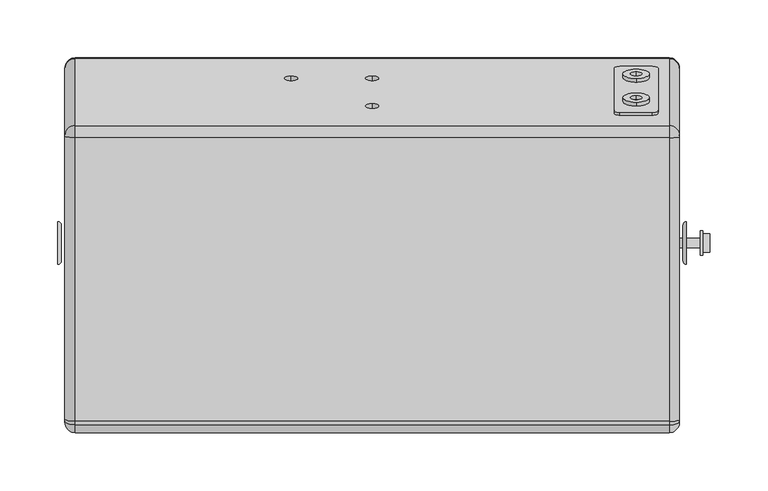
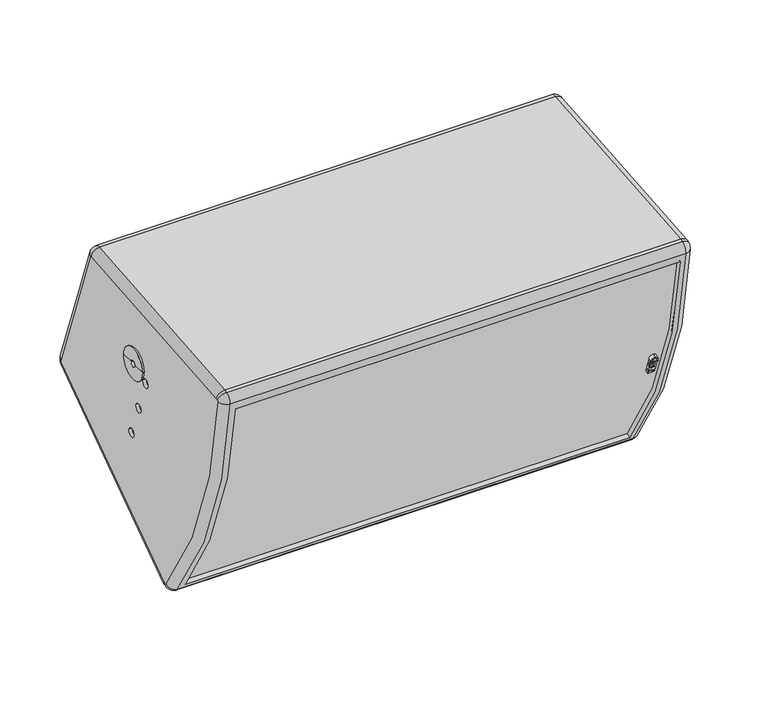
"""IFC4 building model written with IfcOpenShell, lengths in millimetres: proxy geometry, ePS10-HBRK535-CHM : ePS10-HBRK535-CHM."""

from ifc_helpers import new_model, si_unit, point, frame, frame_2d, origin, place, context, project, spatial, polyline, circle_curve, ellipse_curve, trimmed, segment, composite_curve, outline, extrude, source, transform, mapped, element, save
from ifc_brep_helpers import plane_surface, cylinder_surface, revolved_surface, advanced_brep


def generic_models_9b18be5a(model_context):
    return source(origin(), model_context, "Body", "SolidModel", [
        extrude(outline(polyline([(0.0, 0.0), (7.2797671, 0.0), (7.2797671, -1.8923673), (3.1144368, -1.8923673), (7.2797671, -4.6674642), (7.2797671, -11.5183739), (5.4047959, -12.8369463), (3.8052625, -11.7735691), (5.6771026, -10.4040266), (5.6771026, -7.3703972), (4.4228153, -7.3703972), (4.4228153, -9.6535101), (2.820085, -9.6535101), (2.820085, -7.3703972), (1.6035818, -7.3703972), (1.6035818, -9.7774719), (0.8035818, -9.7774719), (0.0008515, -9.2438131), (0.0008515, -4.9754372), (4.4509076, -4.9657456), (0.0, -2.0264793), (0.0, 0.0)])), frame((236.0590531, -155.6252623, -339.7705012), z_axis=(0.0, 0.9396926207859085, 0.34202014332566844), x_axis=(1.0, 0.0, 0.0)), (0.0, 0.0, 1.0), 5.0),
        extrude(outline(polyline([(0.0, -9.8851283), (8.2409469, -15.3637474), (8.2409469, -17.5569502), (0.0, -12.078331), (0.0, -9.8851283)])), frame((236.0590531, -155.6252623, -339.7705012), z_axis=(0.0, 0.9396926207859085, 0.34202014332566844), x_axis=(1.0, 0.0, 0.0)), (0.0, 0.0, 1.0), 5.0),
        extrude(outline(polyline([(0.0, -16.6257623), (0.0, -14.2989718), (1.267957, -13.5511775), (2.8988509, -14.6354032), (0.0, -16.6257623)])), frame((236.0590531, -155.6252623, -339.7705012), z_axis=(0.0, 0.9396926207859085, 0.34202014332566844), x_axis=(1.0, 0.0, 0.0)), (0.0, 0.0, 1.0), 5.0),
        extrude(outline(composite_curve([segment(trimmed(circle_curve(frame_2d((3.670838, -20.0113735)), 3.9406238), [point((3.670838, -16.0707497))], [point((3.670838, -23.9519974))], False, "CARTESIAN"), True, "CONTINUOUS"), segment(trimmed(circle_curve(frame_2d((3.670838, -20.0113735)), 3.9406238), [point((3.670838, -23.9519974))], [point((3.670838, -16.0707497))], False, "CARTESIAN"), True, "CONTINUOUS")], self_intersect=False), holes=[composite_curve([segment(trimmed(circle_curve(frame_2d((3.670838, -20.0113735)), 2.0681078), [point((3.670838, -17.9432657))], [point((3.670838, -22.0794812))], True, "CARTESIAN"), True, "CONTINUOUS"), segment(trimmed(circle_curve(frame_2d((3.670838, -20.0113735)), 2.0681078), [point((3.670838, -22.0794812))], [point((3.670838, -17.9432657))], True, "CARTESIAN"), True, "CONTINUOUS")], self_intersect=False)]), frame((236.0590531, -155.6252623, -339.7705012), z_axis=(0.0, 0.9396926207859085, 0.34202014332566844), x_axis=(1.0, 0.0, 0.0)), (0.0, 0.0, 1.0), 5.0),
        extrude(outline(composite_curve([segment(trimmed(circle_curve(frame_2d((0.0, 5.0)), 11.4515227), [point((0.0, 16.4515227))], [point((0.0, -6.4515226))], False, "CARTESIAN"), True, "CONTINUOUS"), segment(trimmed(circle_curve(frame_2d((0.0, 5.0)), 11.4515227), [point((0.0, -6.4515226))], [point((0.0, 16.4515227))], False, "CARTESIAN"), True, "CONTINUOUS")], self_intersect=False), holes=[composite_curve([segment(trimmed(circle_curve(frame_2d((0.0, 5.0)), 5.0), [point((0.0, 10.0))], [point((0.0, 0.0))], True, "CARTESIAN"), True, "CONTINUOUS"), segment(trimmed(circle_curve(frame_2d((0.0, 5.0)), 5.0), [point((0.0, 0.0))], [point((0.0, 10.0))], True, "CARTESIAN"), True, "CONTINUOUS")], self_intersect=False)]), frame((228.0, 93.5351781, -209.7766717), z_axis=(0.0, 0.9396926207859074, 0.3420201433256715), x_axis=(-1.0, 0.0, 0.0)), (0.0, 0.0, 1.0), 3.4052646),
        extrude(outline(composite_curve([segment(trimmed(circle_curve(frame_2d((0.0, -55.0)), 11.4515227), [point((0.0, -43.5484774))], [point((0.0, -66.4515227))], False, "CARTESIAN"), True, "CONTINUOUS"), segment(trimmed(circle_curve(frame_2d((0.0, -55.0)), 11.4515227), [point((0.0, -66.4515227))], [point((0.0, -43.5484774))], False, "CARTESIAN"), True, "CONTINUOUS")], self_intersect=False), holes=[composite_curve([segment(trimmed(circle_curve(frame_2d((0.0, -55.0)), 5.0), [point((0.0, -50.0))], [point((0.0, -60.0))], True, "CARTESIAN"), True, "CONTINUOUS"), segment(trimmed(circle_curve(frame_2d((0.0, -55.0)), 5.0), [point((0.0, -60.0))], [point((0.0, -50.0))], True, "CARTESIAN"), True, "CONTINUOUS")], self_intersect=False)]), frame((228.0, 93.5351781, -209.7766717), z_axis=(0.0, 0.9396926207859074, 0.3420201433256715), x_axis=(-1.0, 0.0, 0.0)), (0.0, 0.0, 1.0), 3.4052646),
        extrude(outline(composite_curve([segment(polyline([(-5.0, -5.0), (-5.0, 101.0)]), True, "CONTINUOUS"), segment(trimmed(circle_curve(frame_2d((0.0, 101.0)), 5.0), [point((-5.0, 101.0))], [point((0.0, 106.0))], False, "CARTESIAN"), True, "CONTINUOUS"), segment(polyline([(0.0, 106.0), (28.0, 106.0)]), True, "CONTINUOUS"), segment(trimmed(circle_curve(frame_2d((28.0, 101.0)), 5.0), [point((28.0, 106.0))], [point((33.0, 101.0))], False, "CARTESIAN"), True, "CONTINUOUS"), segment(polyline([(33.0, 101.0), (33.0, -5.0)]), True, "CONTINUOUS"), segment(trimmed(circle_curve(frame_2d((28.0, -5.0)), 5.0), [point((33.0, -5.0))], [point((28.0, -10.0))], False, "CARTESIAN"), True, "CONTINUOUS"), segment(polyline([(28.0, -10.0), (0.0, -10.0)]), True, "CONTINUOUS"), segment(trimmed(circle_curve(frame_2d((0.0, -5.0)), 5.0), [point((0.0, -10.0))], [point((-5.0, -5.0))], False, "CARTESIAN"), True, "CONTINUOUS")], self_intersect=False)), frame((214.0, 83.3194833, -189.0187918), z_axis=(0.0, 0.9396926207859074, 0.3420201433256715), x_axis=(1.0, 0.0, 0.0)), (0.0, 0.0, 1.0), 2.5),
        advanced_brep(
        [(-265.5, 120.2466681, -316.7654385), (-265.5, 119.8775217, -317.9362213), (-265.5, -80.6604938, -458.3544514), (-265.5, -82.5397121, -459.0384309), (-265.5, -83.6994288, -458.6847752), (-265.5, -185.1284454, -180.0108425), (-265.5, -184.4673763, -178.994475), (-265.5, -182.5881581, -178.3104955), (-265.5, 61.2919728, -156.9737487), (-265.5, 62.3273201, -157.6333377), (-265.5, -35.1984631, -283.2363296), (-265.5, -25.8015369, -279.8161281), (-265.5, -21.5176574, -320.8240344), (-265.5, -12.1207312, -317.4038329), (-265.5, -48.8792688, -245.6486247), (-265.5, -39.4823426, -242.2284233), (265.5, 62.3195426, -157.6361684), (265.5, 61.2926942, -156.9819939), (265.5, -182.5863512, -178.3186456), (265.5, -184.4645456, -179.0022525), (265.5, -185.1201881, -180.010277), (265.5, -83.6927398, -458.6799007), (265.5, -82.5425429, -459.0306534), (265.5, -80.6643485, -458.3470466), (265.5, 119.8727744, -317.9294415), (265.5, 120.2388906, -316.7682693), (265.5, -25.8015369, -279.8161281), (265.5, -35.1984631, -283.2363296), (265.5, -12.1207312, -317.4038329), (265.5, -21.5176574, -320.8240344), (265.5, -39.4823426, -242.2284233), (265.5, -48.8792688, -245.6486247), (-261.5, -25.8015369, -279.8161281), (-261.5, -35.1984631, -283.2363296), (-261.5, -12.1207312, -317.4038329), (-261.5, -21.5176574, -320.8240344), (-261.5, -39.4823426, -242.2284233), (-261.5, -48.8792688, -245.6486247), (-250.5, -95.67032, -457.4237069), (-250.5, -90.7991071, -455.6507305), (-250.5, -188.6168681, -186.8986409), (-250.5, -193.488081, -188.6716174), (250.5, -193.488081, -188.6716174), (250.5, -188.6168681, -186.8986409), (250.5, -90.7991071, -455.6507305), (250.5, -95.67032, -457.4237069), (261.5, -25.8015369, -279.8161281), (261.5, -35.1984631, -283.2363296), (261.5, -12.1207312, -317.4038329), (261.5, -21.5176574, -320.8240344), (261.5, -39.4823426, -242.2284233), (261.5, -48.8792688, -245.6486247), (0.0, 104.0452659, -263.7822256), (0.0, 107.9146493, -274.4132693), (0.0, 80.1038558, -198.0037422), (0.0, 83.9732393, -208.6347859), (-70.0, 104.0452659, -263.7822256), (-70.0, 107.9146493, -274.4132693), (0.0, 113.6418272, -272.328747), (0.0, 109.7724438, -261.6977034), (0.0, 89.7004172, -206.5502636), (0.0, 85.8310337, -195.9192199), (-256.5082766, 128.6961242, -313.690088), (-256.5082766, 70.7767762, -154.5579871), (256.5, 70.7767762, -154.5579871), (256.5, 128.6961242, -313.690088), (-70.0, 113.6418272, -272.328747), (-70.0, 109.7724438, -261.6977034), (-256.5082766, 125.0349623, -325.3018098), (256.5, 125.0349623, -325.3018098), (-256.5082766, -76.4727513, -466.39903), (256.5, -76.4727513, -466.39903), (-256.5082766, -79.4643616, -467.487887), (256.5, -79.4643616, -467.487887), (-256.5082766, -194.0991519, -180.6252642), (-256.5082766, -90.9663313, -463.9803599), (256.500006, -90.9663313, -463.9803599), (256.5, -194.0991519, -180.6252642), (-256.5082766, -184.5511166, -169.4561618), (-256.5082766, -187.5427269, -170.5450189), (256.5, -187.5427269, -170.5450189), (256.5, -184.5511166, -169.4561618), (-256.5082766, 60.5082925, -148.0162416), (256.5, 60.5082925, -148.0162416)],
        [
            (0, 1, circle_curve(frame((-265.5, 119.299198, -317.1102894), z_axis=(-1.0, 0.0, 0.0), x_axis=(0.0, 0.9396926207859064, 0.3420201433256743)), 1.0082766)),
            (1, 2),
            (2, 3),
            (3, 4, circle_curve(frame((-265.5, -82.884563, -458.0909608), z_axis=(-1.0, 0.0, 0.0), x_axis=(0.0, 0.3420201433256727, -0.939692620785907)), 1.0082766)),
            (4, 5, circle_curve(frame((-265.5, 348.9059431, -143.4337588), z_axis=(-1.0, 0.0, 0.0), x_axis=(0.0, -0.8081768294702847, -0.5889399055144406)), 535.2855417)),
            (5, 6, circle_curve(frame((-265.5, -184.1225254, -179.9419451), z_axis=(-1.0, 0.0, 0.0), x_axis=(0.0, -0.9976626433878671, -0.06833191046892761)), 1.0082766)),
            (6, 7),
            (7, 8),
            (8, 9, circle_curve(frame((-265.5, 61.3798499, -157.9781886), z_axis=(-1.0, 0.0, 0.0), x_axis=(0.0, -0.08715574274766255, 0.9961946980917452)), 1.0082766)),
            (9, 0),
            (10, 11, circle_curve(frame((-265.5, -30.5, -281.5262288), z_axis=(1.0, 0.0, 0.0), x_axis=(0.0, -0.9396926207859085, -0.34202014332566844)), 5.0)),
            (11, 10, circle_curve(frame((-265.5, -30.5, -281.5262288), z_axis=(1.0, 0.0, 0.0), x_axis=(0.0, -0.9396926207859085, -0.34202014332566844)), 5.0)),
            (12, 13, circle_curve(frame((-265.5, -16.8191943, -319.1139337), z_axis=(1.0, 0.0, 0.0), x_axis=(0.0, -0.9396926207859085, -0.34202014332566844)), 5.0)),
            (13, 12, circle_curve(frame((-265.5, -16.8191943, -319.1139337), z_axis=(1.0, 0.0, 0.0), x_axis=(0.0, -0.9396926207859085, -0.34202014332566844)), 5.0)),
            (14, 15, circle_curve(frame((-265.5, -44.1808057, -243.938524), z_axis=(1.0, 0.0, 0.0), x_axis=(0.0, -0.9396926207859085, -0.34202014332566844)), 5.0)),
            (15, 14, circle_curve(frame((-265.5, -44.1808057, -243.938524), z_axis=(1.0, 0.0, 0.0), x_axis=(0.0, -0.9396926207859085, -0.34202014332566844)), 5.0)),
            (16, 17, circle_curve(frame((265.5, 61.3798499, -157.9781886), z_axis=(1.0, 0.0, 0.0), x_axis=(0.0, 0.9396926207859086, 0.34202014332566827)), 1.0)),
            (17, 18),
            (18, 19),
            (19, 20, circle_curve(frame((265.5, -184.1225254, -179.9419451), z_axis=(1.0, 0.0, 0.0), x_axis=(0.0, -0.34202014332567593, 0.9396926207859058)), 1.0)),
            (20, 21, circle_curve(frame((265.5, 348.9059431, -143.4337588), z_axis=(1.0, 0.0, 0.0), x_axis=(0.0, -0.9976626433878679, -0.06833191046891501)), 535.277265)),
            (21, 22, circle_curve(frame((265.5, -82.884563, -458.0909608), z_axis=(1.0, 0.0, 0.0), x_axis=(0.0, -0.8081768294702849, -0.5889399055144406)), 1.0)),
            (22, 23),
            (23, 24),
            (24, 25, circle_curve(frame((265.5, 119.299198, -317.1102894), z_axis=(1.0, 0.0, 0.0), x_axis=(0.0, 0.5735764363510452, -0.8191520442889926)), 1.0)),
            (25, 16),
            (26, 27, circle_curve(frame((265.5, -30.5, -281.5262288), z_axis=(-1.0, 0.0, 0.0), x_axis=(0.0, -0.9396926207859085, -0.34202014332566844)), 5.0)),
            (27, 26, circle_curve(frame((265.5, -30.5, -281.5262288), z_axis=(-1.0, 0.0, 0.0), x_axis=(0.0, -0.9396926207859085, -0.34202014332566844)), 5.0)),
            (28, 29, circle_curve(frame((265.5, -16.8191943, -319.1139337), z_axis=(-1.0, 0.0, 0.0), x_axis=(0.0, -0.9396926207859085, -0.34202014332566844)), 5.0)),
            (29, 28, circle_curve(frame((265.5, -16.8191943, -319.1139337), z_axis=(-1.0, 0.0, 0.0), x_axis=(0.0, -0.9396926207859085, -0.34202014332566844)), 5.0)),
            (30, 31, circle_curve(frame((265.5, -44.1808057, -243.938524), z_axis=(-1.0, 0.0, 0.0), x_axis=(0.0, -0.9396926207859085, -0.34202014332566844)), 5.0)),
            (31, 30, circle_curve(frame((265.5, -44.1808057, -243.938524), z_axis=(-1.0, 0.0, 0.0), x_axis=(0.0, -0.9396926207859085, -0.34202014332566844)), 5.0)),
            (32, 33, circle_curve(frame((-261.5, -30.5, -281.5262288), z_axis=(-1.0, 0.0, 0.0), x_axis=(0.0, -0.9396926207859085, -0.34202014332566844)), 5.0)),
            (33, 32, circle_curve(frame((-261.5, -30.5, -281.5262288), z_axis=(-1.0, 0.0, 0.0), x_axis=(0.0, -0.9396926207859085, -0.34202014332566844)), 5.0)),
            (34, 35, circle_curve(frame((-261.5, -16.8191943, -319.1139337), z_axis=(-1.0, 0.0, 0.0), x_axis=(0.0, -0.9396926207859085, -0.34202014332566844)), 5.0)),
            (35, 34, circle_curve(frame((-261.5, -16.8191943, -319.1139337), z_axis=(-1.0, 0.0, 0.0), x_axis=(0.0, -0.9396926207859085, -0.34202014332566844)), 5.0)),
            (36, 37, circle_curve(frame((-261.5, -44.1808057, -243.938524), z_axis=(-1.0, 0.0, 0.0), x_axis=(0.0, -0.9396926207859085, -0.34202014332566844)), 5.0)),
            (37, 36, circle_curve(frame((-261.5, -44.1808057, -243.938524), z_axis=(-1.0, 0.0, 0.0), x_axis=(0.0, -0.9396926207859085, -0.34202014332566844)), 5.0)),
            (32, 11),
            (10, 33),
            (34, 13),
            (12, 35),
            (36, 15),
            (14, 37),
            (38, 39),
            (39, 40, circle_curve(frame((-250.5, 348.9059431, -143.4337588), z_axis=(-1.0, 0.0, 0.0), x_axis=(0.0, -0.34202014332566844, 0.9396926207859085)), 539.277265)),
            (40, 41),
            (41, 38, circle_curve(frame((-250.5, 348.9059431, -143.4337588), z_axis=(1.0, 0.0, 0.0), x_axis=(0.0, -0.34202014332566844, 0.9396926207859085)), 544.277265)),
            (42, 43),
            (43, 44, circle_curve(frame((250.5, 348.9059431, -143.4337588), z_axis=(1.0, 0.0, 0.0), x_axis=(0.0, -0.34202014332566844, 0.9396926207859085)), 539.277265)),
            (44, 45),
            (45, 42, circle_curve(frame((250.5, 348.9059431, -143.4337588), z_axis=(-1.0, 0.0, 0.0), x_axis=(0.0, -0.34202014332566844, 0.9396926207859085)), 544.277265)),
            (46, 47, circle_curve(frame((261.5, -30.5, -281.5262288), z_axis=(1.0, 0.0, 0.0), x_axis=(0.0, -0.9396926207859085, -0.34202014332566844)), 5.0)),
            (47, 46, circle_curve(frame((261.5, -30.5, -281.5262288), z_axis=(1.0, 0.0, 0.0), x_axis=(0.0, -0.9396926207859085, -0.34202014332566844)), 5.0)),
            (48, 49, circle_curve(frame((261.5, -16.8191943, -319.1139337), z_axis=(1.0, 0.0, 0.0), x_axis=(0.0, -0.9396926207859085, -0.34202014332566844)), 5.0)),
            (49, 48, circle_curve(frame((261.5, -16.8191943, -319.1139337), z_axis=(1.0, 0.0, 0.0), x_axis=(0.0, -0.9396926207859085, -0.34202014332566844)), 5.0)),
            (50, 51, circle_curve(frame((261.5, -44.1808057, -243.938524), z_axis=(1.0, 0.0, 0.0), x_axis=(0.0, -0.9396926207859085, -0.34202014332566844)), 5.0)),
            (51, 50, circle_curve(frame((261.5, -44.1808057, -243.938524), z_axis=(1.0, 0.0, 0.0), x_axis=(0.0, -0.9396926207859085, -0.34202014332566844)), 5.0)),
            (47, 27),
            (26, 46),
            (49, 29),
            (28, 48),
            (51, 31),
            (30, 50),
            (52, 53, circle_curve(frame((0.0, 105.9799576, -269.0977475), z_axis=(0.0, 0.9396926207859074, 0.3420201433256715), x_axis=(0.0, 0.3420201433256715, -0.9396926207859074)), 5.6566602)),
            (53, 52, circle_curve(frame((0.0, 105.9799576, -269.0977475), z_axis=(0.0, 0.9396926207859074, 0.3420201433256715), x_axis=(0.0, 0.3420201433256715, -0.9396926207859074)), 5.6566602)),
            (54, 55, circle_curve(frame((0.0, 82.0385476, -203.319264), z_axis=(0.0, 0.9396926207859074, 0.3420201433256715), x_axis=(0.0, 0.3420201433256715, -0.9396926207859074)), 5.6566602)),
            (55, 54, circle_curve(frame((0.0, 82.0385476, -203.319264), z_axis=(0.0, 0.9396926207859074, 0.3420201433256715), x_axis=(0.0, 0.3420201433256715, -0.9396926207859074)), 5.6566602)),
            (56, 57, circle_curve(frame((-70.0, 105.9799576, -269.0977475), z_axis=(0.0, 0.9396926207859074, 0.3420201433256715), x_axis=(0.0, 0.3420201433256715, -0.9396926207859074)), 5.6566602)),
            (57, 56, circle_curve(frame((-70.0, 105.9799576, -269.0977475), z_axis=(0.0, 0.9396926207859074, 0.3420201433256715), x_axis=(0.0, 0.3420201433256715, -0.9396926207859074)), 5.6566602)),
            (53, 58),
            (58, 59, circle_curve(frame((0.0, 111.7071355, -267.0132252), z_axis=(0.0, 0.9396926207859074, 0.3420201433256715), x_axis=(0.0, 0.3420201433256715, -0.9396926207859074)), 5.6566602)),
            (59, 52),
            (59, 58, circle_curve(frame((0.0, 111.7071355, -267.0132252), z_axis=(0.0, 0.9396926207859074, 0.3420201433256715), x_axis=(0.0, 0.3420201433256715, -0.9396926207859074)), 5.6566602)),
            (55, 60),
            (60, 61, circle_curve(frame((0.0, 87.7657255, -201.2347417), z_axis=(0.0, 0.9396926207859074, 0.3420201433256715), x_axis=(0.0, 0.3420201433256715, -0.9396926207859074)), 5.6566602)),
            (61, 54),
            (61, 60, circle_curve(frame((0.0, 87.7657255, -201.2347417), z_axis=(0.0, 0.9396926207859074, 0.3420201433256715), x_axis=(0.0, 0.3420201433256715, -0.9396926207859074)), 5.6566602)),
            (62, 63),
            (63, 64),
            (64, 65),
            (65, 62),
            (66, 67, circle_curve(frame((-70.0, 111.7071355, -267.0132252), z_axis=(0.0, -0.9396926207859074, -0.3420201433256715), x_axis=(0.0, 0.3420201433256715, -0.9396926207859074)), 5.6566602)),
            (67, 66, circle_curve(frame((-70.0, 111.7071355, -267.0132252), z_axis=(0.0, -0.9396926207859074, -0.3420201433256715), x_axis=(0.0, 0.3420201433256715, -0.9396926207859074)), 5.6566602)),
            (68, 62, circle_curve(frame((-256.5082766, 119.299198, -317.1102894), z_axis=(1.0, 0.0, 0.0), x_axis=(0.0, -0.34202014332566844, 0.9396926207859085)), 10.0)),
            (65, 69, circle_curve(frame((256.5, 119.299198, -317.1102894), z_axis=(-1.0, 0.0, 0.0), x_axis=(0.0, -0.34202014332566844, 0.9396926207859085)), 10.0)),
            (69, 68),
            (70, 68),
            (69, 71),
            (71, 70),
            (72, 70),
            (71, 73),
            (73, 72),
            (74, 75, circle_curve(frame((-256.5082766, 348.9059431, -143.4337588), z_axis=(1.0, 0.0, 0.0), x_axis=(0.0, -0.34202014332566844, 0.9396926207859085)), 544.277265)),
            (75, 76),
            (76, 77, circle_curve(frame((256.5, 348.9059431, -143.4337588), z_axis=(-1.0, 0.0, 0.0), x_axis=(0.0, -0.34202014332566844, 0.9396926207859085)), 544.277265)),
            (77, 74),
            (41, 42),
            (45, 38),
            (78, 79),
            (79, 80),
            (80, 81),
            (81, 78),
            (82, 78),
            (81, 83),
            (83, 82),
            (63, 82, circle_curve(frame((-256.5082766, 61.3798499, -157.9781886), z_axis=(1.0, 0.0, 0.0), x_axis=(0.0, -0.34202014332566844, 0.9396926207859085)), 10.0)),
            (83, 64, circle_curve(frame((256.5, 61.3798499, -157.9781886), z_axis=(-1.0, 0.0, 0.0), x_axis=(0.0, -0.34202014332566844, 0.9396926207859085)), 10.0)),
            (75, 72, circle_curve(frame((-256.5082766, -82.884563, -458.0909608), z_axis=(1.0, 0.0, 0.0), x_axis=(0.0, -0.34202014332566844, 0.9396926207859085)), 10.0)),
            (73, 76, circle_curve(frame((256.5, -82.884563, -458.0909608), z_axis=(-1.0, 0.0, 0.0), x_axis=(0.0, -0.34202014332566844, 0.9396926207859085)), 10.0)),
            (79, 74, circle_curve(frame((-256.5082766, -184.1225254, -179.9419451), z_axis=(1.0, 0.0, 0.0), x_axis=(0.0, -0.34202014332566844, 0.9396926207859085)), 10.0)),
            (77, 80, circle_curve(frame((256.5, -184.1225254, -179.9419451), z_axis=(-1.0, 0.0, 0.0), x_axis=(0.0, -0.34202014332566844, 0.9396926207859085)), 10.0)),
            (56, 67),
            (66, 57),
            (40, 43),
            (39, 44),
            (68, 1, circle_curve(frame((-256.5082766, 119.8775217, -317.9362213), z_axis=(0.0, 0.8191520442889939, 0.5735764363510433), x_axis=(0.0, -0.5735764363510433, 0.8191520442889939)), 8.9917234)),
            (0, 62, circle_curve(frame((-256.5082766, 120.2466681, -316.7654385), z_axis=(0.0, 0.342020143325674, -0.9396926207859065), x_axis=(0.0, -0.9396926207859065, -0.342020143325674)), 8.9917234)),
            (70, 2, ellipse_curve(frame((-256.5082766, -80.6604938, -458.3544514), z_axis=(0.0, 0.8870108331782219, 0.46174861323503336), x_axis=(0.0, 0.46174861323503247, -0.8870108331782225)), 9.0693126, 8.9917234)),
            (72, 3, circle_curve(frame((-256.5082766, -82.5397121, -459.0384309), z_axis=(0.0, 0.9396926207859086, 0.3420201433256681), x_axis=(0.0, -0.3420201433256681, 0.9396926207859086)), 8.9917234)),
            (75, 4, circle_curve(frame((-256.5082766, -83.6994288, -458.6847752), z_axis=(0.0, 0.5889399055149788, -0.8081768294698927), x_axis=(0.0, 0.8081768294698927, 0.5889399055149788)), 8.9917234)),
            (74, 5, circle_curve(frame((-256.5082766, -185.1284454, -180.0108425), z_axis=(0.0, 0.06833191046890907, -0.9976626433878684), x_axis=(0.0, 0.9976626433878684, 0.06833191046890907)), 8.9917234)),
            (79, 6, circle_curve(frame((-256.5082766, -184.4673763, -178.994475), z_axis=(0.0, -0.9396926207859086, -0.34202014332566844), x_axis=(0.0, 0.34202014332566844, -0.9396926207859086)), 8.9917234)),
            (78, 7, ellipse_curve(frame((-256.5082766, -182.5881581, -178.3104955), z_axis=(0.0, -0.976296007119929, -0.21643961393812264), x_axis=(0.0, -0.21643961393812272, 0.9762960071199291)), 9.0693126, 8.9917234)),
            (82, 8, circle_curve(frame((-256.5082766, 61.2919728, -156.9737487), z_axis=(0.0, -0.9961946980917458, -0.08715574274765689), x_axis=(0.0, 0.08715574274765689, -0.9961946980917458)), 8.9917234)),
            (63, 9, circle_curve(frame((-256.5082766, 62.3273201, -157.6333377), z_axis=(0.0, -0.34202014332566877, 0.9396926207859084), x_axis=(0.0, -0.9396926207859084, -0.34202014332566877)), 8.9917234)),
            (83, 17, circle_curve(frame((256.5, 61.2926942, -156.9819939), z_axis=(0.0, 0.996194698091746, 0.08715574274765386), x_axis=(0.0, 0.08715574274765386, -0.996194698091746)), 9.0)),
            (16, 64, circle_curve(frame((256.5, 62.3195426, -157.6361684), z_axis=(0.0, -0.342020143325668, 0.9396926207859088), x_axis=(0.0, -0.9396926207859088, -0.342020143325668)), 9.0)),
            (81, 18, ellipse_curve(frame((256.5, -182.5863512, -178.3186456), z_axis=(0.0, 0.9762960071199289, 0.21643961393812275), x_axis=(0.0, -0.21643961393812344, 0.9762960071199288)), 9.0776606, 9.0)),
            (80, 19, circle_curve(frame((256.5, -184.4645456, -179.0022525), z_axis=(0.0, 0.9396926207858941, 0.34202014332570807), x_axis=(0.0, 0.34202014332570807, -0.9396926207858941)), 9.0)),
            (77, 20, circle_curve(frame((256.5, -185.1201881, -180.010277), z_axis=(0.0, -0.0683319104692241, 0.9976626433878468), x_axis=(0.0, 0.9976626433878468, 0.0683319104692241)), 9.0)),
            (76, 21, circle_curve(frame((256.5, -83.6927398, -458.6799007), z_axis=(0.0, -0.5889399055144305, 0.8081768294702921), x_axis=(0.0, 0.8081768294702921, 0.5889399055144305)), 9.0)),
            (73, 22, circle_curve(frame((256.5, -82.5425429, -459.0306534), z_axis=(0.0, -0.9396926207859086, -0.34202014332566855), x_axis=(0.0, -0.34202014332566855, 0.9396926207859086)), 9.0)),
            (71, 23, ellipse_curve(frame((256.5, -80.6643485, -458.3470466), z_axis=(0.0, -0.887010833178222, -0.46174861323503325), x_axis=(0.0, 0.46174861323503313, -0.887010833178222)), 9.0776606, 9.0)),
            (69, 24, circle_curve(frame((256.5, 119.8727744, -317.9294415), z_axis=(0.0, -0.8191520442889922, -0.5735764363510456), x_axis=(0.0, -0.5735764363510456, 0.8191520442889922)), 9.0)),
            (65, 25, circle_curve(frame((256.5, 120.2388906, -316.7682693), z_axis=(0.0, 0.34202014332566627, -0.9396926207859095), x_axis=(0.0, -0.9396926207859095, -0.34202014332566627)), 9.0)),
        ],
        [
            plane_surface(frame((-265.5, 128.8273448, -314.0506137), z_axis=(-1.0000000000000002, 0.0, 0.0), x_axis=(0.0, 0.34202014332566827, -0.9396926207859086))),
            plane_surface(frame((265.5, 128.8273448, -314.0506137), z_axis=(1.0000000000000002, 0.0, 0.0), x_axis=(0.0, -0.34202014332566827, 0.9396926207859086))),
            plane_surface(frame((-261.5, -35.1984631, -283.2363296), z_axis=(-1.0, 0.0, 0.0), x_axis=(0.0, 0.34202014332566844, -0.9396926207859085))),
            revolved_surface(polyline([(-265.5, -35.19846310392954, -283.23632951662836), (-261.5, -35.19846310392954, -283.23632951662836)]), (-261.5, -30.5, -281.5262288), (-1.0, 0.0, 0.0)),
            revolved_surface(polyline([(-265.5, -21.51765740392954, -320.82403441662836), (-261.5, -21.51765740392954, -320.82403441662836)]), (-265.5, -16.8191943, -319.1139337), (-1.0, 0.0, 0.0)),
            revolved_surface(polyline([(-265.5, -48.87926880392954, -245.64862471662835), (-261.5, -48.87926880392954, -245.64862471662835)]), (-265.5, -44.1808057, -243.938524), (-1.0, 0.0, 0.0)),
            plane_surface(frame((-250.5, -254.9057971, -211.0258379), z_axis=(1.0, 0.0, 0.0), x_axis=(0.0, 0.9396926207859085, 0.34202014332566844))),
            plane_surface(frame((250.5, -254.9057971, -211.0258379), z_axis=(-1.0, 0.0, 0.0), x_axis=(0.0, -0.9396926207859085, -0.34202014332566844))),
            plane_surface(frame((261.5, -35.1984631, -283.2363296), z_axis=(1.0, 0.0, 0.0), x_axis=(0.0, -0.34202014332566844, 0.9396926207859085))),
            revolved_surface(polyline([(261.5, -35.19846310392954, -283.23632951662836), (265.5, -35.19846310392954, -283.23632951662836)]), (269.5, -30.5, -281.5262288), (-1.0, 0.0, 0.0)),
            revolved_surface(polyline([(261.5, -21.51765740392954, -320.82403441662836), (265.5, -21.51765740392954, -320.82403441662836)]), (265.5, -16.8191943, -319.1139337), (-1.0, 0.0, 0.0)),
            revolved_surface(polyline([(261.5, -48.87926880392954, -245.64862471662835), (265.5, -48.87926880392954, -245.64862471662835)]), (265.5, -44.1808057, -243.938524), (-1.0, 0.0, 0.0)),
            plane_surface(frame((0.0, 107.9146493, -274.4132693), z_axis=(0.0, 0.9396926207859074, 0.3420201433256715), x_axis=(1.0, 0.0, 0.0))),
            revolved_surface(polyline([(0.0, 113.64182725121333, -272.3287470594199), (0.0, 107.91464931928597, -274.4132693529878)]), (0.0, 105.9799576, -269.0977475), (0.0, 0.9396926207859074, 0.3420201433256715)),
            revolved_surface(polyline([(0.0, 89.70041723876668, -206.5502635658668), (0.0, 83.97323925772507, -208.63478587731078)]), (0.0, 93.314859, -199.2150223), (0.0, 0.9396926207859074, 0.3420201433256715)),
            plane_surface(frame((-265.5, 70.7767762, -154.5579871), z_axis=(0.0, 0.9396926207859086, 0.34202014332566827), x_axis=(1.0, 0.0, 0.0))),
            cylinder_surface(frame((265.5, 119.299198, -317.1102894), z_axis=(-1.0, 0.0, 0.0), x_axis=(0.0, -0.34202014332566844, 0.9396926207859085)), 10.0),
            plane_surface(frame((-265.5, 125.0349623, -325.3018098), z_axis=(0.0, 0.5735764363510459, -0.8191520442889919), x_axis=(1.0, 0.0, 0.0))),
            plane_surface(frame((-265.5, -76.4727513, -466.39903), z_axis=(0.0, 0.34202014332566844, -0.9396926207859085), x_axis=(1.0, 0.0, 0.0))),
            cylinder_surface(frame((265.5, 348.9059431, -143.4337588), z_axis=(-1.0, 0.0, 0.0), x_axis=(0.0, -0.34202014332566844, 0.9396926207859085)), 544.277265),
            plane_surface(frame((-265.5, -187.5427269, -170.5450189), z_axis=(0.0, -0.3420201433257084, 0.939692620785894), x_axis=(1.0, 0.0, 0.0))),
            plane_surface(frame((-265.5, -184.5511166, -169.4561618), z_axis=(0.0, -0.08715574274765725, 0.9961946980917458), x_axis=(1.0, 0.0, 0.0))),
            cylinder_surface(frame((265.5, 61.3798499, -157.9781886), z_axis=(-1.0, 0.0, 0.0), x_axis=(0.0, -0.34202014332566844, 0.9396926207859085)), 10.0),
            cylinder_surface(frame((265.5, -82.884563, -458.0909608), z_axis=(-1.0, 0.0, 0.0), x_axis=(0.0, -0.34202014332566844, 0.9396926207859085)), 10.0),
            cylinder_surface(frame((265.5, -184.1225254, -179.9419451), z_axis=(-1.0, 0.0, 0.0), x_axis=(0.0, -0.34202014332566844, 0.9396926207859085)), 10.0),
            revolved_surface(polyline([(-70.0, 113.64182725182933, -272.3287470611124), (-70.0, 107.91464931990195, -274.4132693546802)]), (-70.0, 117.256269, -264.9935058), (0.0, 0.9396926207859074, 0.3420201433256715)),
            plane_surface(frame((-250.5, -193.488081, -188.6716174), z_axis=(0.0, 0.34202014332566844, -0.9396926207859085), x_axis=(1.0, 0.0, 0.0))),
            cylinder_surface(frame((250.5, 348.9059431, -143.4337588), z_axis=(1.0, 0.0, 0.0), x_axis=(0.0, -0.34202014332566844, 0.9396926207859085)), 539.277265),
            plane_surface(frame((-250.5, -90.7991071, -455.6507305), z_axis=(0.0, -0.3420201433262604, 0.939692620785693), x_axis=(1.0, 0.0, 0.0))),
            revolved_surface(trimmed(ellipse_curve(frame((-256.5082766, 120.2466681, -316.7654385), z_axis=(0.0, -0.342020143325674, 0.9396926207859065), x_axis=(0.0, -0.9396926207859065, -0.342020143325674)), 8.9917234, 8.9917234), [point((-256.5082766, 128.6961242, -313.690088))], [point((-265.5, 120.2466681, -316.7654385))], True, "CARTESIAN"), (-265.5, 119.299198, -317.1102894), (-1.0, 0.0, 0.0)),
            cylinder_surface(frame((-256.5082766, 119.8775217, -317.9362213), z_axis=(0.0, -0.8191520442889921, -0.5735764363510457), x_axis=(0.0, -0.5735764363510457, 0.8191520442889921)), 8.9917234),
            cylinder_surface(frame((-256.5082766, -79.5481018, -457.9495739), z_axis=(0.0, -0.9396926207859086, -0.3420201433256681), x_axis=(0.0, -0.3420201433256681, 0.9396926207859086)), 8.9917234),
            revolved_surface(trimmed(ellipse_curve(frame((-256.5082766, -82.5397121, -459.0384309), z_axis=(0.0, 0.9396926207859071, 0.3420201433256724), x_axis=(0.0, -0.3420201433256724, 0.9396926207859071)), 8.9917234, 8.9917234), [point((-256.5082766, -79.4643616, -467.487887))], [point((-265.5, -82.5397121, -459.0384309))], True, "CARTESIAN"), (-265.5, -82.884563, -458.0909608), (-1.0, 0.0, 0.0)),
            revolved_surface(trimmed(ellipse_curve(frame((-256.5082766, -83.6994288, -458.6847752), z_axis=(0.0, 0.5889399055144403, -0.8081768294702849), x_axis=(0.0, 0.8081768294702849, 0.5889399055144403)), 8.9917234, 8.9917234), [point((-256.5082766, -90.9663313, -463.9803599))], [point((-265.5, -83.6994288, -458.6847752))], True, "CARTESIAN"), (-265.5, 348.9059431, -143.4337588), (-1.0, 0.0, 0.0)),
            revolved_surface(trimmed(ellipse_curve(frame((-256.5082766, -185.1284454, -180.0108425), z_axis=(0.0, 0.06833191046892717, -0.9976626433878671), x_axis=(0.0, 0.9976626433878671, 0.06833191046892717)), 8.9917234, 8.9917234), [point((-256.5082766, -194.0991519, -180.6252642))], [point((-265.5, -185.1284454, -180.0108425))], True, "CARTESIAN"), (-265.5, -184.1225254, -179.9419451), (-1.0, 0.0, 0.0)),
            cylinder_surface(frame((-256.5082766, -184.4673763, -178.994475), z_axis=(0.0, 0.9396926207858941, 0.34202014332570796), x_axis=(0.0, 0.34202014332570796, -0.9396926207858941)), 8.9917234),
            cylinder_surface(frame((-256.5082766, -183.7674363, -178.4136689), z_axis=(0.0, 0.9961946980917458, 0.08715574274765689), x_axis=(0.0, 0.08715574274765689, -0.9961946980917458)), 8.9917234),
            revolved_surface(trimmed(ellipse_curve(frame((-256.5082766, 61.2919728, -156.9737487), z_axis=(0.0, -0.9961946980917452, -0.08715574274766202), x_axis=(0.0, 0.08715574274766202, -0.9961946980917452)), 8.9917234, 8.9917234), [point((-256.5082766, 60.5082925, -148.0162416))], [point((-265.5, 61.2919728, -156.9737487))], True, "CARTESIAN"), (-265.5, 61.3798499, -157.9781886), (-1.0, 0.0, 0.0)),
            cylinder_surface(frame((-256.5082766, 62.3273201, -157.6333377), z_axis=(0.0, 0.34202014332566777, -0.9396926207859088), x_axis=(0.0, -0.9396926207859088, -0.34202014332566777)), 8.9917234),
            revolved_surface(trimmed(ellipse_curve(frame((256.5, 62.3195426, -157.6361684), z_axis=(0.0, 0.342020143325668, -0.9396926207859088), x_axis=(0.0, -0.9396926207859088, -0.342020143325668)), 9.0, 9.0), [point((256.5, 70.7767762, -154.5579871))], [point((265.5, 62.3195426, -157.6361684))], True, "CARTESIAN"), (265.5, 61.3798499, -157.9781886), (1.0, 0.0, 0.0)),
            cylinder_surface(frame((256.5, 61.2926942, -156.9819939), z_axis=(0.0, -0.9961946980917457, -0.087155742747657), x_axis=(0.0, 0.087155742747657, -0.9961946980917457)), 9.0),
            cylinder_surface(frame((256.5, -181.4729353, -177.9133954), z_axis=(0.0, -0.9396926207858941, -0.34202014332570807), x_axis=(0.0, 0.34202014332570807, -0.9396926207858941)), 9.0),
            revolved_surface(trimmed(ellipse_curve(frame((256.5, -184.4645456, -179.0022525), z_axis=(0.0, 0.9396926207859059, 0.3420201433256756), x_axis=(0.0, 0.3420201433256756, -0.9396926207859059)), 9.0, 9.0), [point((256.5, -187.5427269, -170.5450189))], [point((265.5, -184.4645456, -179.0022525))], True, "CARTESIAN"), (265.5, -184.1225254, -179.9419451), (1.0, 0.0, 0.0)),
            revolved_surface(trimmed(ellipse_curve(frame((256.5, -185.1201881, -180.010277), z_axis=(0.0, -0.06833191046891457, 0.9976626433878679), x_axis=(0.0, 0.9976626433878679, 0.06833191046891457)), 9.0, 9.0), [point((256.5, -194.0991519, -180.6252642))], [point((265.5, -185.1201881, -180.010277))], True, "CARTESIAN"), (265.5, 348.9059431, -143.4337588), (1.0, 0.0, 0.0)),
            revolved_surface(trimmed(ellipse_curve(frame((256.5, -83.6927398, -458.6799007), z_axis=(0.0, -0.5889399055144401, 0.8081768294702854), x_axis=(0.0, 0.8081768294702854, 0.5889399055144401)), 9.0, 9.0), [point((256.5, -90.9663313, -463.9803599))], [point((265.5, -83.6927398, -458.6799007))], True, "CARTESIAN"), (265.5, -82.884563, -458.0909608), (1.0, 0.0, 0.0)),
            cylinder_surface(frame((256.5, -82.5425429, -459.0306534), z_axis=(0.0, 0.9396926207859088, 0.34202014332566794), x_axis=(0.0, -0.34202014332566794, 0.9396926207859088)), 9.0),
            cylinder_surface(frame((256.5, -81.6349392, -459.0266616), z_axis=(0.0, 0.8191520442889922, 0.5735764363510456), x_axis=(0.0, -0.5735764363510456, 0.8191520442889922)), 9.0),
            revolved_surface(trimmed(ellipse_curve(frame((256.5, 119.8727744, -317.9294415), z_axis=(0.0, -0.8191520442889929, -0.5735764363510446), x_axis=(0.0, -0.5735764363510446, 0.8191520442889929)), 9.0, 9.0), [point((256.5, 125.0349623, -325.3018098))], [point((265.5, 119.8727744, -317.9294415))], True, "CARTESIAN"), (265.5, 119.299198, -317.1102894), (1.0, 0.0, 0.0)),
            cylinder_surface(frame((256.5, 120.2388906, -316.7682693), z_axis=(0.0, -0.3420201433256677, 0.9396926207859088), x_axis=(0.0, -0.9396926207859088, -0.3420201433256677)), 9.0),
        ],
        [
            (0, [[1, 2, 3, 4, 5, 6, 7, 8, 9, 10], [11, 12], [13, 14], [15, 16]]),
            (1, [[17, 18, 19, 20, 21, 22, 23, 24, 25, 26], [27, 28], [29, 30], [31, 32]]),
            (2, [[33, 34]]),
            (2, [[35, 36]]),
            (2, [[37, 38]]),
            (3, [[-33, 39, -11, 40]]),
            (3, [[-34, -40, -12, -39]]),
            (4, [[-35, 41, -13, 42]]),
            (4, [[-36, -42, -14, -41]]),
            (5, [[-37, 43, -15, 44]]),
            (5, [[-38, -44, -16, -43]]),
            (6, [[45, 46, 47, 48]]),
            (7, [[49, 50, 51, 52]]),
            (8, [[53, 54]]),
            (8, [[55, 56]]),
            (8, [[57, 58]]),
            (9, [[-54, 59, -27, 60]]),
            (9, [[-53, -60, -28, -59]]),
            (10, [[-56, 61, -29, 62]]),
            (10, [[-55, -62, -30, -61]]),
            (11, [[-58, 63, -31, 64]]),
            (11, [[-57, -64, -32, -63]]),
            (12, [[65, 66]]),
            (12, [[67, 68]]),
            (12, [[69, 70]]),
            (13, [[-66, 71, 72, 73]]),
            (13, [[-65, -73, 74, -71]]),
            (14, [[-68, 75, 76, 77]]),
            (14, [[-67, -77, 78, -75]]),
            (15, [[79, 80, 81, 82], [-72, -74], [-76, -78], [83, 84]]),
            (16, [[85, -82, 86, 87]]),
            (17, [[88, -87, 89, 90]]),
            (18, [[91, -90, 92, 93]]),
            (19, [[94, 95, 96, 97], [-48, 98, -52, 99]]),
            (20, [[100, 101, 102, 103]]),
            (21, [[104, -103, 105, 106]]),
            (22, [[107, -106, 108, -80]]),
            (23, [[109, -93, 110, -95]]),
            (24, [[111, -97, 112, -101]]),
            (25, [[-69, 113, -83, 114]]),
            (25, [[-70, -114, -84, -113]]),
            (26, [[-47, 115, -49, -98]]),
            (27, [[-46, 116, -50, -115]]),
            (28, [[-45, -99, -51, -116]]),
            (29, [[117, -1, 118, -85]]),
            (30, [[-117, -88, 119, -2]]),
            (31, [[-119, -91, 120, -3]]),
            (32, [[-120, -109, 121, -4]]),
            (33, [[-121, -94, 122, -5]]),
            (34, [[-122, -111, 123, -6]]),
            (35, [[-123, -100, 124, -7]]),
            (36, [[-124, -104, 125, -8]]),
            (37, [[-125, -107, 126, -9]]),
            (38, [[-118, -10, -126, -79]]),
            (39, [[127, -17, 128, -108]]),
            (40, [[-127, -105, 129, -18]]),
            (41, [[-129, -102, 130, -19]]),
            (42, [[-130, -112, 131, -20]]),
            (43, [[-131, -96, 132, -21]]),
            (44, [[-132, -110, 133, -22]]),
            (45, [[-133, -92, 134, -23]]),
            (46, [[-134, -89, 135, -24]]),
            (47, [[-135, -86, 136, -25]]),
            (48, [[-128, -26, -136, -81]]),
        ],
    ),
        advanced_brep(
        [(271.5, -26.527433, -226.5012591), (271.5, -34.472567, -226.5012591), (271.5, -48.942415, -226.5012591), (271.5, -12.057585, -226.5012591), (268.5, -45.942415, -226.5012591), (268.5, -15.057585, -226.5012591), (268.5, -34.472567, -226.5012591), (268.5, -26.527433, -226.5012591)],
        [
            (0, 1, circle_curve(frame((271.5, -30.5, -226.5012591), z_axis=(-1.0, 0.0, 0.0), x_axis=(0.0, -1.0, 0.0)), 3.972567)),
            (1, 2),
            (2, 3, circle_curve(frame((271.5, -30.5, -226.5012591), z_axis=(1.0, 0.0, 0.0), x_axis=(0.0, -1.0, 0.0)), 18.442415)),
            (3, 0),
            (1, 0, circle_curve(frame((271.5, -30.5, -226.5012591), z_axis=(-1.0, 0.0, 0.0), x_axis=(0.0, -1.0, 0.0)), 3.972567)),
            (3, 2, circle_curve(frame((271.5, -30.5, -226.5012591), z_axis=(1.0, 0.0, 0.0), x_axis=(0.0, -1.0, 0.0)), 18.442415)),
            (2, 4, circle_curve(frame((271.5, -45.942415, -226.5012591), z_axis=(0.0, 0.0, -1.0), x_axis=(-1.0, 0.0, 0.0)), 3.0)),
            (4, 5, circle_curve(frame((268.5, -30.5, -226.5012591), z_axis=(1.0, 0.0, 0.0), x_axis=(0.0, -1.0, 0.0)), 15.442415)),
            (5, 3, circle_curve(frame((271.5, -15.057585, -226.5012591), z_axis=(0.0, 0.0, -1.0), x_axis=(-1.0, 0.0, 0.0)), 3.0)),
            (5, 4, circle_curve(frame((268.5, -30.5, -226.5012591), z_axis=(1.0, 0.0, 0.0), x_axis=(0.0, -1.0, 0.0)), 15.442415)),
            (4, 6),
            (6, 7, circle_curve(frame((268.5, -30.5, -226.5012591), z_axis=(1.0, 0.0, 0.0), x_axis=(0.0, -1.0, 0.0)), 3.972567)),
            (7, 5),
            (7, 6, circle_curve(frame((268.5, -30.5, -226.5012591), z_axis=(1.0, 0.0, 0.0), x_axis=(0.0, -1.0, 0.0)), 3.972567)),
            (6, 1),
            (0, 7),
        ],
        [
            plane_surface(frame((271.5, -30.5, -226.5012591), z_axis=(1.0, 0.0, 0.0), x_axis=(0.0, -1.0, 0.0))),
            revolved_surface(trimmed(ellipse_curve(frame((271.5, -45.942415, -226.5012591), z_axis=(0.0, 0.0, 1.0), x_axis=(-1.0, 0.0, 0.0)), 3.0, 3.0), [point((268.5, -45.942415, -226.5012591))], [point((271.5, -48.942415, -226.5012591))], True, "CARTESIAN"), (258.7578639, -30.5, -226.5012591), (1.0, 0.0, 0.0)),
            plane_surface(frame((268.5, -30.5, -226.5012591), z_axis=(-1.0, 0.0, 0.0), x_axis=(0.0, -1.0, 0.0))),
            revolved_surface(polyline([(271.5, -34.472567, -226.5012591), (268.5, -34.472567, -226.5012591)]), (258.7578639, -30.5, -226.5012591), (1.0, 0.0, 0.0)),
        ],
        [
            (0, [[1, 2, 3, 4]]),
            (0, [[5, -4, 6, -2]]),
            (1, [[-3, 7, 8, 9]]),
            (1, [[-6, -9, 10, -7]]),
            (2, [[-8, 11, 12, 13]]),
            (2, [[-10, -13, 14, -11]]),
            (3, [[-12, 15, -1, 16]]),
            (3, [[-14, -16, -5, -15]]),
        ],
    ),
        advanced_brep(
        [(-271.5, -12.057585, -226.5012591), (-271.5, -48.942415, -226.5012591), (-271.5, -34.472567, -226.5012591), (-271.5, -26.527433, -226.5012591), (-268.5, -15.057585, -226.5012591), (-268.5, -45.942415, -226.5012591), (-268.5, -26.527433, -226.5012591), (-268.5, -34.472567, -226.5012591)],
        [
            (0, 1, circle_curve(frame((-271.5, -30.5, -226.5012591), z_axis=(-1.0, 0.0, 0.0), x_axis=(0.0, -1.0, 0.0)), 18.442415)),
            (1, 2),
            (2, 3, circle_curve(frame((-271.5, -30.5, -226.5012591), z_axis=(1.0, 0.0, 0.0), x_axis=(0.0, -1.0, 0.0)), 3.972567)),
            (3, 0),
            (1, 0, circle_curve(frame((-271.5, -30.5, -226.5012591), z_axis=(-1.0, 0.0, 0.0), x_axis=(0.0, -1.0, 0.0)), 18.442415)),
            (3, 2, circle_curve(frame((-271.5, -30.5, -226.5012591), z_axis=(1.0, 0.0, 0.0), x_axis=(0.0, -1.0, 0.0)), 3.972567)),
            (4, 5, circle_curve(frame((-268.5, -30.5, -226.5012591), z_axis=(-1.0, 0.0, 0.0), x_axis=(0.0, -1.0, 0.0)), 15.442415)),
            (5, 1, circle_curve(frame((-271.5, -45.942415, -226.5012591), z_axis=(0.0, 0.0, -1.0), x_axis=(1.0, 0.0, 0.0)), 3.0)),
            (0, 4, circle_curve(frame((-271.5, -15.057585, -226.5012591), z_axis=(0.0, 0.0, -1.0), x_axis=(1.0, 0.0, 0.0)), 3.0)),
            (5, 4, circle_curve(frame((-268.5, -30.5, -226.5012591), z_axis=(-1.0, 0.0, 0.0), x_axis=(0.0, -1.0, 0.0)), 15.442415)),
            (6, 7, circle_curve(frame((-268.5, -30.5, -226.5012591), z_axis=(-1.0, 0.0, 0.0), x_axis=(0.0, -1.0, 0.0)), 3.972567)),
            (7, 5),
            (4, 6),
            (7, 6, circle_curve(frame((-268.5, -30.5, -226.5012591), z_axis=(-1.0, 0.0, 0.0), x_axis=(0.0, -1.0, 0.0)), 3.972567)),
            (2, 7),
            (6, 3),
        ],
        [
            plane_surface(frame((-271.5, -30.5, -226.5012591), z_axis=(-1.0, 0.0, 0.0), x_axis=(0.0, -1.0, 0.0))),
            revolved_surface(trimmed(ellipse_curve(frame((-271.5, -45.942415, -226.5012591), z_axis=(0.0, 0.0, 1.0), x_axis=(1.0, 0.0, 0.0)), 3.0, 3.0), [point((-271.5, -48.942415, -226.5012591))], [point((-268.5, -45.942415, -226.5012591))], True, "CARTESIAN"), (-258.7578639, -30.5, -226.5012591), (1.0, 0.0, 0.0)),
            plane_surface(frame((-268.5, -30.5, -226.5012591), z_axis=(1.0, 0.0, 0.0), x_axis=(0.0, -1.0, 0.0))),
            revolved_surface(polyline([(-268.5, -34.472567, -226.5012591), (-271.5, -34.472567, -226.5012591)]), (-258.7578639, -30.5, -226.5012591), (1.0, 0.0, 0.0)),
        ],
        [
            (0, [[1, 2, 3, 4]]),
            (0, [[5, -4, 6, -2]]),
            (1, [[7, 8, -1, 9]]),
            (1, [[10, -9, -5, -8]]),
            (2, [[11, 12, -7, 13]]),
            (2, [[14, -13, -10, -12]]),
            (3, [[-3, 15, -11, 16]]),
            (3, [[-6, -16, -14, -15]]),
        ],
    ),
        advanced_brep(
        [(271.5, -26.4446423, -281.5012591), (271.5, -34.5553577, -281.5012591), (271.5, -48.942415, -281.5012591), (271.5, -12.057585, -281.5012591), (268.5, -45.942415, -281.5012591), (268.5, -15.057585, -281.5012591), (268.5, -34.5553577, -281.5012591), (268.5, -26.4446423, -281.5012591), (265.5, -34.5553577, -281.5012591), (265.5, -26.4446423, -281.5012591), (265.5, -30.5, -281.5012591), (291.5, -30.5, -281.5012591), (291.5, -38.5750303, -281.5012591), (291.5, -22.4249697, -281.5012591), (285.5, -38.5750303, -281.5012591), (285.5, -22.4249697, -281.5012591), (285.5, -41.055922, -281.5012591), (285.5, -19.944078, -281.5012591), (283.5, -41.055922, -281.5012591), (283.5, -19.944078, -281.5012591), (283.5, -34.5553577, -281.5012591), (283.5, -26.4446423, -281.5012591)],
        [
            (0, 1, circle_curve(frame((271.5, -30.5, -281.5012591), z_axis=(-1.0, 0.0, 0.0), x_axis=(0.0, -1.0, 0.0)), 4.0553577)),
            (1, 2),
            (2, 3, circle_curve(frame((271.5, -30.5, -281.5012591), z_axis=(1.0, 0.0, 0.0), x_axis=(0.0, -1.0, 0.0)), 18.442415)),
            (3, 0),
            (1, 0, circle_curve(frame((271.5, -30.5, -281.5012591), z_axis=(-1.0, 0.0, 0.0), x_axis=(0.0, -1.0, 0.0)), 4.0553577)),
            (3, 2, circle_curve(frame((271.5, -30.5, -281.5012591), z_axis=(1.0, 0.0, 0.0), x_axis=(0.0, -1.0, 0.0)), 18.442415)),
            (2, 4, circle_curve(frame((271.5, -45.942415, -281.5012591), z_axis=(0.0, 0.0, -1.0), x_axis=(-1.0, 0.0, 0.0)), 3.0)),
            (4, 5, circle_curve(frame((268.5, -30.5, -281.5012591), z_axis=(1.0, 0.0, 0.0), x_axis=(0.0, -1.0, 0.0)), 15.442415)),
            (5, 3, circle_curve(frame((271.5, -15.057585, -281.5012591), z_axis=(0.0, 0.0, -1.0), x_axis=(-1.0, 0.0, 0.0)), 3.0)),
            (5, 4, circle_curve(frame((268.5, -30.5, -281.5012591), z_axis=(1.0, 0.0, 0.0), x_axis=(0.0, -1.0, 0.0)), 15.442415)),
            (4, 6),
            (6, 7, circle_curve(frame((268.5, -30.5, -281.5012591), z_axis=(1.0, 0.0, 0.0), x_axis=(0.0, -1.0, 0.0)), 4.0553577)),
            (7, 5),
            (7, 6, circle_curve(frame((268.5, -30.5, -281.5012591), z_axis=(1.0, 0.0, 0.0), x_axis=(0.0, -1.0, 0.0)), 4.0553577)),
            (6, 8),
            (8, 9, circle_curve(frame((265.5, -30.5, -281.5012591), z_axis=(1.0, 0.0, 0.0), x_axis=(0.0, -1.0, 0.0)), 4.0553577)),
            (9, 7),
            (9, 8, circle_curve(frame((265.5, -30.5, -281.5012591), z_axis=(1.0, 0.0, 0.0), x_axis=(0.0, -1.0, 0.0)), 4.0553577)),
            (8, 10),
            (10, 9),
            (11, 12),
            (12, 13, circle_curve(frame((291.5, -30.5, -281.5012591), z_axis=(1.0, 0.0, 0.0), x_axis=(0.0, -1.0, 0.0)), 8.0750303)),
            (13, 11),
            (13, 12, circle_curve(frame((291.5, -30.5, -281.5012591), z_axis=(1.0, 0.0, 0.0), x_axis=(0.0, -1.0, 0.0)), 8.0750303)),
            (12, 14),
            (14, 15, circle_curve(frame((285.5, -30.5, -281.5012591), z_axis=(1.0, 0.0, 0.0), x_axis=(0.0, -1.0, 0.0)), 8.0750303)),
            (15, 13),
            (15, 14, circle_curve(frame((285.5, -30.5, -281.5012591), z_axis=(1.0, 0.0, 0.0), x_axis=(0.0, -1.0, 0.0)), 8.0750303)),
            (14, 16),
            (16, 17, circle_curve(frame((285.5, -30.5, -281.5012591), z_axis=(1.0, 0.0, 0.0), x_axis=(0.0, -1.0, 0.0)), 10.555922)),
            (17, 15),
            (17, 16, circle_curve(frame((285.5, -30.5, -281.5012591), z_axis=(1.0, 0.0, 0.0), x_axis=(0.0, -1.0, 0.0)), 10.555922)),
            (16, 18),
            (18, 19, circle_curve(frame((283.5, -30.5, -281.5012591), z_axis=(1.0, 0.0, 0.0), x_axis=(0.0, -1.0, 0.0)), 10.555922)),
            (19, 17),
            (19, 18, circle_curve(frame((283.5, -30.5, -281.5012591), z_axis=(1.0, 0.0, 0.0), x_axis=(0.0, -1.0, 0.0)), 10.555922)),
            (18, 20),
            (20, 21, circle_curve(frame((283.5, -30.5, -281.5012591), z_axis=(1.0, 0.0, 0.0), x_axis=(0.0, -1.0, 0.0)), 4.0553577)),
            (21, 19),
            (21, 20, circle_curve(frame((283.5, -30.5, -281.5012591), z_axis=(1.0, 0.0, 0.0), x_axis=(0.0, -1.0, 0.0)), 4.0553577)),
            (20, 1),
            (0, 21),
        ],
        [
            plane_surface(frame((271.5, -30.5, -281.5012591), z_axis=(1.0, 0.0, 0.0), x_axis=(0.0, -1.0, 0.0))),
            revolved_surface(trimmed(ellipse_curve(frame((271.5, -45.942415, -281.5012591), z_axis=(0.0, 0.0, 1.0), x_axis=(-1.0, 0.0, 0.0)), 3.0, 3.0), [point((268.5, -45.942415, -281.5012591))], [point((271.5, -48.942415, -281.5012591))], True, "CARTESIAN"), (258.7578639, -30.5, -281.5012591), (1.0, 0.0, 0.0)),
            plane_surface(frame((268.5, -30.5, -281.5012591), z_axis=(-1.0, 0.0, 0.0), x_axis=(0.0, -1.0, 0.0))),
            cylinder_surface(frame((258.7578639, -30.5, -281.5012591), z_axis=(1.0, 0.0, 0.0), x_axis=(0.0, -1.0, 0.0)), 4.0553577),
            plane_surface(frame((265.5, -30.5, -281.5012591), z_axis=(-1.0, 0.0, 0.0), x_axis=(0.0, -1.0, 0.0))),
            plane_surface(frame((291.5, -30.5, -281.5012591), z_axis=(1.0, 0.0, 0.0), x_axis=(0.0, -1.0, 0.0))),
            cylinder_surface(frame((258.7578639, -30.5, -281.5012591), z_axis=(1.0, 0.0, 0.0), x_axis=(0.0, -1.0, 0.0)), 8.0750303),
            plane_surface(frame((285.5, -30.5, -281.5012591), z_axis=(1.0, 0.0, 0.0), x_axis=(0.0, -1.0, 0.0))),
            cylinder_surface(frame((258.7578639, -30.5, -281.5012591), z_axis=(1.0, 0.0, 0.0), x_axis=(0.0, -1.0, 0.0)), 10.555922),
            plane_surface(frame((283.5, -30.5, -281.5012591), z_axis=(-1.0, 0.0, 0.0), x_axis=(0.0, -1.0, 0.0))),
        ],
        [
            (0, [[1, 2, 3, 4]]),
            (0, [[5, -4, 6, -2]]),
            (1, [[-3, 7, 8, 9]]),
            (1, [[-6, -9, 10, -7]]),
            (2, [[-8, 11, 12, 13]]),
            (2, [[-10, -13, 14, -11]]),
            (3, [[-12, 15, 16, 17]]),
            (3, [[-14, -17, 18, -15]]),
            (4, [[-16, 19, 20]]),
            (4, [[-18, -20, -19]]),
            (5, [[21, 22, 23]]),
            (5, [[-23, 24, -21]]),
            (6, [[-22, 25, 26, 27]]),
            (6, [[-24, -27, 28, -25]]),
            (7, [[-26, 29, 30, 31]]),
            (7, [[-28, -31, 32, -29]]),
            (8, [[-30, 33, 34, 35]]),
            (8, [[-32, -35, 36, -33]]),
            (9, [[-34, 37, 38, 39]]),
            (9, [[-36, -39, 40, -37]]),
            (3, [[-38, 41, -1, 42]]),
            (3, [[-40, -42, -5, -41]]),
        ],
    ),
    ])


if __name__ == "__main__":
    model = new_model("IFC4")
    model_context = context("Model", 3, world=origin())
    ifc_project = project(units=[si_unit("LENGTHUNIT", "METRE", prefix="MILLI")], contexts=[model_context])
    site = spatial("IfcSite", under=ifc_project)
    building = spatial("IfcBuilding", under=site)
    placement = place(None, origin())
    generic_models_shape = generic_models_9b18be5a(model_context)
    element("IfcBuildingElementProxy", 1, Name="ePS10-HBRK535-CHM : ePS10-HBRK535-CHM", ObjectType="ePS10-HBRK535-CHM : ePS10-HBRK535-CHM", at=placement, inside=building, context=model_context, shape_type="MappedRepresentation", body=[
        mapped(generic_models_shape, transform((0.0, 0.0, 0.0), x_axis=(1.0, 0.0, 0.0), y_axis=(0.0, 1.0, 0.0), z_axis=(0.0, 0.0, 1.0))),
    ])
    save(model, "model.ifc")
